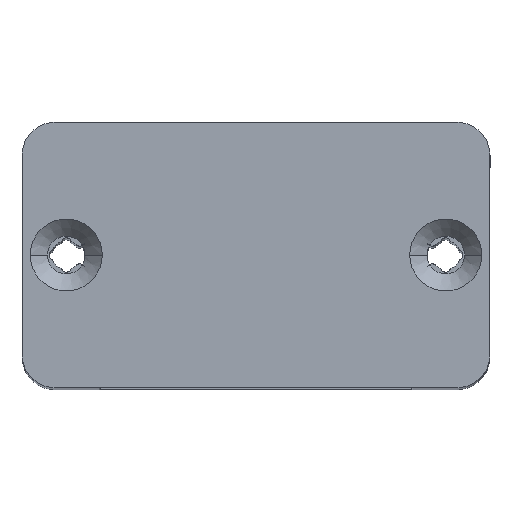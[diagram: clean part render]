
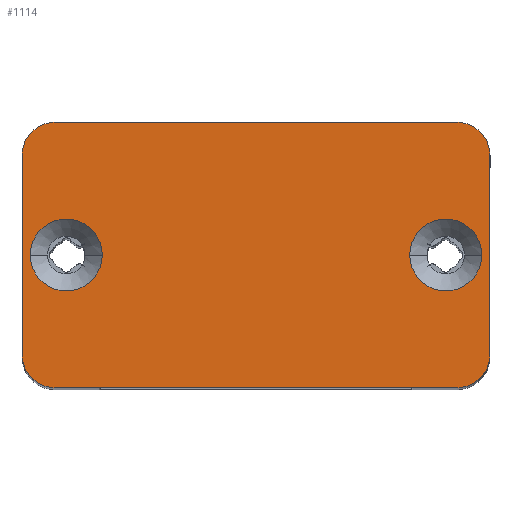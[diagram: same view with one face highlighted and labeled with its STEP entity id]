
A CAD part, top view. The second image highlights one B-rep face of the part: STEP entity #1114.
In plain terms, the highlighted planar face has unit normal (0, 0, 1).
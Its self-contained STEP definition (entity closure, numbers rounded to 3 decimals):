
#35 = CIRCLE ( 'NONE', #4669, 3.25 ) ;
#103 = DIRECTION ( 'NONE',  ( 1., 0., 0. ) ) ;
#102 = CARTESIAN_POINT ( 'NONE',  ( -18.15, 9., 2. ) ) ;
#224 = DIRECTION ( 'NONE',  ( 0., 0., 1. ) ) ;
#245 = ORIENTED_EDGE ( 'NONE', *, *, #2183, .T. ) ;
#348 = DIRECTION ( 'NONE',  ( 0., 0., 1. ) ) ;
#439 = CARTESIAN_POINT ( 'NONE',  ( -18.15, -12., 2. ) ) ;
#615 = DIRECTION ( 'NONE',  ( 1., 0., 0. ) ) ;
#720 = CIRCLE ( 'NONE', #2010, 3. ) ;
#744 = DIRECTION ( 'NONE',  ( 1., 0., 0. ) ) ;
#764 = ORIENTED_EDGE ( 'NONE', *, *, #4363, .F. ) ;
#774 = DIRECTION ( 'NONE',  ( 1., 0., 0. ) ) ;
#909 = CARTESIAN_POINT ( 'NONE',  ( 21.15, -9., 2. ) ) ;
#926 = VERTEX_POINT ( 'NONE', #4180 ) ;
#929 = CARTESIAN_POINT ( 'NONE',  ( 13.9, 0., 2. ) ) ;
#987 = CIRCLE ( 'NONE', #6390, 3. ) ;
#1096 = ORIENTED_EDGE ( 'NONE', *, *, #6841, .T. ) ;
#1114 = ADVANCED_FACE ( 'NONE', ( #5147, #3281, #3162 ), #5106, .T. ) ;
#1327 = DIRECTION ( 'NONE',  ( 1., 0., 0. ) ) ;
#1539 = VERTEX_POINT ( 'NONE', #6342 ) ;
#1654 = VERTEX_POINT ( 'NONE', #6359 ) ;
#1754 = EDGE_CURVE ( 'NONE', #6721, #4339, #7064, .T. ) ;
#1914 = CIRCLE ( 'NONE', #6428, 3. ) ;
#1987 = EDGE_CURVE ( 'NONE', #1654, #1539, #2525, .T. ) ;
#2010 = AXIS2_PLACEMENT_3D ( 'NONE', #7999, #7962, #615 ) ;
#2028 = ORIENTED_EDGE ( 'NONE', *, *, #2416, .F. ) ;
#2183 = EDGE_CURVE ( 'NONE', #4339, #6051, #720, .T. ) ;
#2416 = EDGE_CURVE ( 'NONE', #3813, #926, #6538, .T. ) ;
#2525 = CIRCLE ( 'NONE', #4717, 3. ) ;
#2554 = DIRECTION ( 'NONE',  ( 1., 0., 0. ) ) ;
#2555 = EDGE_LOOP ( 'NONE', ( #4084, #5712 ) ) ;
#2880 = DIRECTION ( 'NONE',  ( 0., -1., 0. ) ) ;
#2911 = DIRECTION ( 'NONE',  ( -1., 0., 0. ) ) ;
#3162 = FACE_OUTER_BOUND ( 'NONE', #4755, .T. ) ;
#3193 = EDGE_LOOP ( 'NONE', ( #764, #2028 ) ) ;
#3281 = FACE_BOUND ( 'NONE', #3193, .T. ) ;
#3280 = CARTESIAN_POINT ( 'NONE',  ( -21.15, -9., 2. ) ) ;
#3301 = DIRECTION ( 'NONE',  ( 0., 1., 0. ) ) ;
#3406 = DIRECTION ( 'NONE',  ( 0., 0., 1. ) ) ;
#3408 = CARTESIAN_POINT ( 'NONE',  ( -21.15, -12., 2. ) ) ;
#3432 = AXIS2_PLACEMENT_3D ( 'NONE', #5441, #7328, #4231 ) ;
#3474 = CARTESIAN_POINT ( 'NONE',  ( 18.15, 12., 2. ) ) ;
#3526 = DIRECTION ( 'NONE',  ( 1., 0., 0. ) ) ;
#3695 = CARTESIAN_POINT ( 'NONE',  ( -18.15, 12., 2. ) ) ;
#3813 = VERTEX_POINT ( 'NONE', #929 ) ;
#3833 = VERTEX_POINT ( 'NONE', #4721 ) ;
#3939 = CARTESIAN_POINT ( 'NONE',  ( 18.15, 9., 2. ) ) ;
#4084 = ORIENTED_EDGE ( 'NONE', *, *, #5864, .F. ) ;
#4145 = VERTEX_POINT ( 'NONE', #6183 ) ;
#4180 = CARTESIAN_POINT ( 'NONE',  ( 20.4, 0., 2. ) ) ;
#4200 = ORIENTED_EDGE ( 'NONE', *, *, #1754, .T. ) ;
#4231 = DIRECTION ( 'NONE',  ( 1., 0., 0. ) ) ;
#4298 = EDGE_CURVE ( 'NONE', #6916, #6721, #1914, .T. ) ;
#4339 = VERTEX_POINT ( 'NONE', #3280 ) ;
#4363 = EDGE_CURVE ( 'NONE', #926, #3813, #5320, .T. ) ;
#4368 = VERTEX_POINT ( 'NONE', #5105 ) ;
#4428 = VECTOR ( 'NONE', #2880, 1000. ) ;
#4452 = EDGE_CURVE ( 'NONE', #4368, #4145, #35, .T. ) ;
#4486 = VERTEX_POINT ( 'NONE', #909 ) ;
#4595 = LINE ( 'NONE', #5126, #6343 ) ;
#4638 = LINE ( 'NONE', #3474, #6076 ) ;
#4669 = AXIS2_PLACEMENT_3D ( 'NONE', #5227, #3406, #3526 ) ;
#4717 = AXIS2_PLACEMENT_3D ( 'NONE', #7192, #348, #7761 ) ;
#4721 = CARTESIAN_POINT ( 'NONE',  ( 18.15, -12., 2. ) ) ;
#4755 = EDGE_LOOP ( 'NONE', ( #4200, #245, #7512, #7744, #6583, #7045, #1096, #6253 ) ) ;
#5106 = PLANE ( 'NONE',  #7642 ) ;
#5105 = CARTESIAN_POINT ( 'NONE',  ( -20.4, 0., 2. ) ) ;
#5126 = CARTESIAN_POINT ( 'NONE',  ( 21.15, -12., 2. ) ) ;
#5147 = FACE_BOUND ( 'NONE', #2555, .T. ) ;
#5146 = CARTESIAN_POINT ( 'NONE',  ( 17.15, 0., 2. ) ) ;
#5227 = CARTESIAN_POINT ( 'NONE',  ( -17.15, 0., 2. ) ) ;
#5248 = EDGE_CURVE ( 'NONE', #4486, #1654, #4595, .T. ) ;
#5320 = CIRCLE ( 'NONE', #5842, 3.25 ) ;
#5441 = CARTESIAN_POINT ( 'NONE',  ( 17.15, 0., 2. ) ) ;
#5546 = EDGE_CURVE ( 'NONE', #6051, #3833, #7462, .T. ) ;
#5630 = CARTESIAN_POINT ( 'NONE',  ( 21.15, -12., 2. ) ) ;
#5712 = ORIENTED_EDGE ( 'NONE', *, *, #4452, .F. ) ;
#5842 = AXIS2_PLACEMENT_3D ( 'NONE', #5146, #7626, #6848 ) ;
#5864 = EDGE_CURVE ( 'NONE', #4145, #4368, #6113, .T. ) ;
#6051 = VERTEX_POINT ( 'NONE', #439 ) ;
#6076 = VECTOR ( 'NONE', #2911, 1000. ) ;
#6113 = CIRCLE ( 'NONE', #7687, 3.25 ) ;
#6183 = CARTESIAN_POINT ( 'NONE',  ( -13.9, 0., 2. ) ) ;
#6253 = ORIENTED_EDGE ( 'NONE', *, *, #4298, .T. ) ;
#6299 = CARTESIAN_POINT ( 'NONE',  ( 18.15, -9., 2. ) ) ;
#6313 = DIRECTION ( 'NONE',  ( 0., 0., 1. ) ) ;
#6342 = CARTESIAN_POINT ( 'NONE',  ( 18.15, 12., 2. ) ) ;
#6343 = VECTOR ( 'NONE', #3301, 1000. ) ;
#6359 = CARTESIAN_POINT ( 'NONE',  ( 21.15, 9., 2. ) ) ;
#6390 = AXIS2_PLACEMENT_3D ( 'NONE', #6299, #7003, #774 ) ;
#6428 = AXIS2_PLACEMENT_3D ( 'NONE', #102, #224, #744 ) ;
#6538 = CIRCLE ( 'NONE', #3432, 3.25 ) ;
#6583 = ORIENTED_EDGE ( 'NONE', *, *, #5248, .T. ) ;
#6654 = VECTOR ( 'NONE', #2554, 1000. ) ;
#6700 = EDGE_CURVE ( 'NONE', #3833, #4486, #987, .T. ) ;
#6721 = VERTEX_POINT ( 'NONE', #6958 ) ;
#6841 = EDGE_CURVE ( 'NONE', #1539, #6916, #4638, .T. ) ;
#6848 = DIRECTION ( 'NONE',  ( 1., 0., 0. ) ) ;
#6916 = VERTEX_POINT ( 'NONE', #3695 ) ;
#6958 = CARTESIAN_POINT ( 'NONE',  ( -21.15, 9., 2. ) ) ;
#7003 = DIRECTION ( 'NONE',  ( 0., 0., 1. ) ) ;
#7045 = ORIENTED_EDGE ( 'NONE', *, *, #1987, .T. ) ;
#7064 = LINE ( 'NONE', #3408, #4428 ) ;
#7192 = CARTESIAN_POINT ( 'NONE',  ( 18.15, 9., 2. ) ) ;
#7328 = DIRECTION ( 'NONE',  ( 0., 0., 1. ) ) ;
#7462 = LINE ( 'NONE', #5630, #6654 ) ;
#7512 = ORIENTED_EDGE ( 'NONE', *, *, #5546, .T. ) ;
#7563 = DIRECTION ( 'NONE',  ( 0., 0., 1. ) ) ;
#7626 = DIRECTION ( 'NONE',  ( 0., 0., 1. ) ) ;
#7638 = CARTESIAN_POINT ( 'NONE',  ( -17.15, 0., 2. ) ) ;
#7642 = AXIS2_PLACEMENT_3D ( 'NONE', #3939, #6313, #103 ) ;
#7687 = AXIS2_PLACEMENT_3D ( 'NONE', #7638, #7563, #1327 ) ;
#7744 = ORIENTED_EDGE ( 'NONE', *, *, #6700, .T. ) ;
#7761 = DIRECTION ( 'NONE',  ( 1., 0., 0. ) ) ;
#7962 = DIRECTION ( 'NONE',  ( 0., 0., 1. ) ) ;
#7999 = CARTESIAN_POINT ( 'NONE',  ( -18.15, -9., 2. ) ) ;
